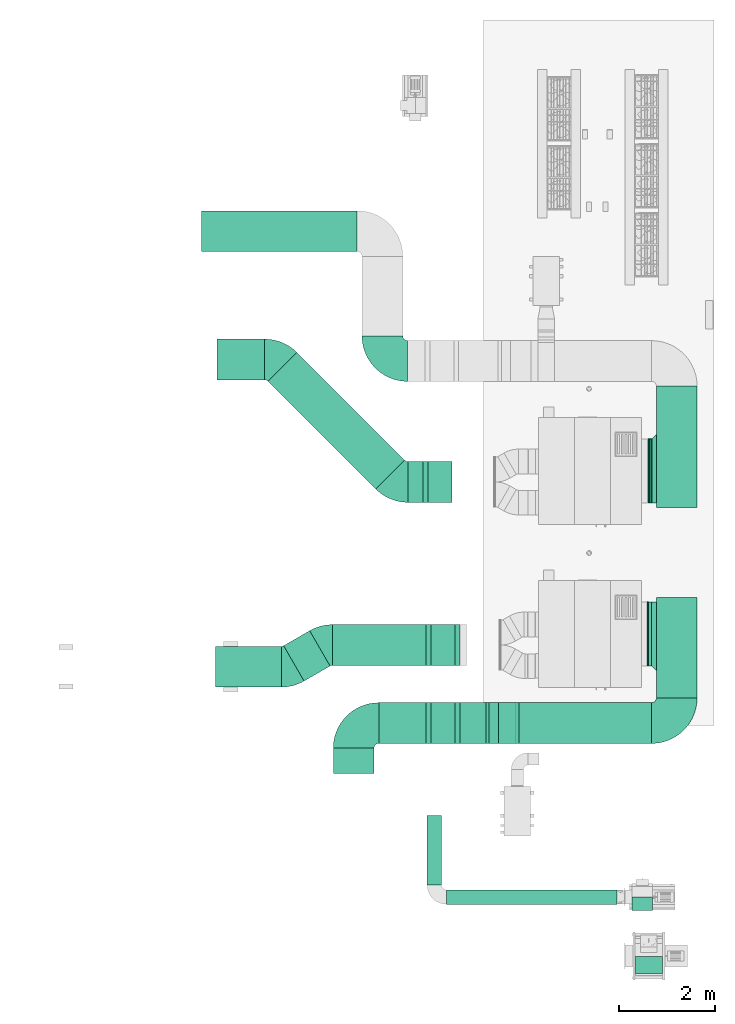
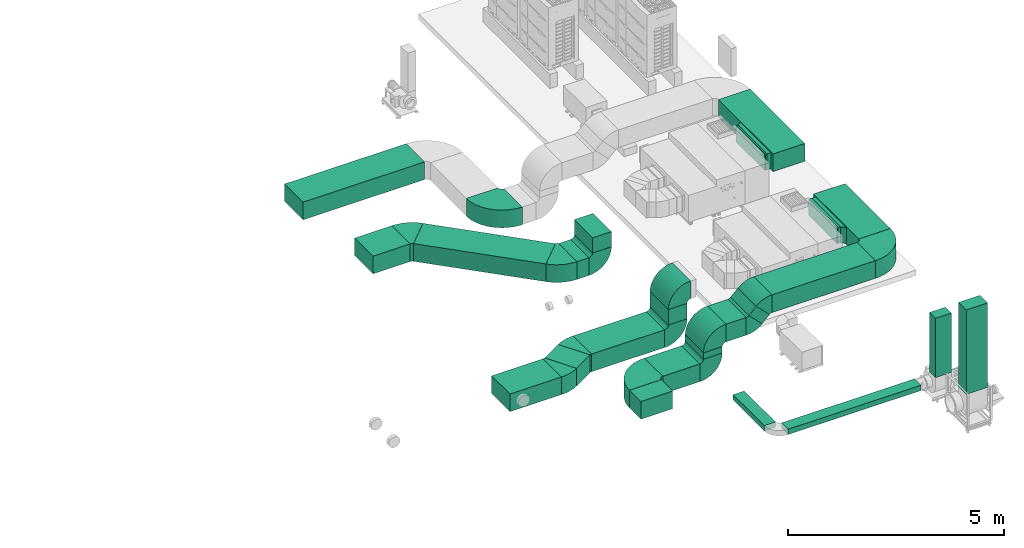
# One storey, part 2 of 10: 23 flow segments, 18 flow fittings.
"""IFC2X3 building model written with IfcOpenShell, lengths in millimetres."""

from ifc_helpers import new_model, entity, si_unit, converted_unit, derived_unit, direction, frame, frame_2d, origin, origin_2d_with_axis, place, context, subcontext, project, spatial, polyline, circle_curve, parameter, trimmed, segment, composite_curve, rectangle, outline, extrude, source, transform, mapped, material, type_object, type_shapes, element, save


model = new_model("IFC2X3")

# Units and contexts
model_context = context("Model", 3, precision=0.01, world=origin(), true_north=direction((6.123233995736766e-17, 1.0)))
body_context = subcontext(model_context, "Body", "Model", "MODEL_VIEW")
ifc_project = project(units=[si_unit("LENGTHUNIT", "METRE", prefix="MILLI"), converted_unit("PLANEANGLEUNIT", "DEGREE", entity("IfcPlaneAngleMeasure", 0.017453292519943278), si_unit("PLANEANGLEUNIT", "RADIAN"), dimensions=[0, 0, 0, 0, 0, 0, 0]), si_unit("AREAUNIT", "SQUARE_METRE"), derived_unit("THERMALTRANSMITTANCEUNIT", [(si_unit("MASSUNIT", "GRAM", prefix="KILO"), 1), (si_unit("THERMODYNAMICTEMPERATUREUNIT", "KELVIN"), -1), (si_unit("TIMEUNIT", "SECOND"), -3)])], contexts=[model_context])

# Site, building, storey
site_placement = place(None, origin())
site = spatial("IfcSite", under=ifc_project, at=site_placement, Name="Default", CompositionType="ELEMENT")
building_placement = place(site_placement, origin())
building = spatial("IfcBuilding", under=site, at=building_placement, Name="Praça Pedro II, 1301 - Centro (Sul), Teresina - PI, 64001-100", CompositionType="ELEMENT")
storey_placement = place(building_placement, frame((0.0, 0.0, 9040.0)))
storey = spatial("IfcBuildingStorey", under=building, at=storey_placement, Name="LAJE TÉCNICA", CompositionType="ELEMENT", Elevation=9040.0)

# Flow segments
duct_segment_type_1 = type_object("IfcDuctSegmentType", Name="Duto retangular:Raios cotovelos / tês", PredefinedType="NOTDEFINED")
flow_segment_1_placement = place(storey_placement, origin())
element("IfcFlowSegment", 1, at=flow_segment_1_placement, inside=storey, type_object=duct_segment_type_1, Name="Duto retangular:Raios cotovelos / tês", ObjectType="Duto retangular:Raios cotovelos / tês", context=body_context, shape_type="SweptSolid", body=[
    extrude(rectangle(XDim=1374.7142273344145, YDim=849.9999999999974, at=origin_2d_with_axis()), frame((30304.74426298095, -64657.40803541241, 230.0)), (0.0, 0.0, 1.0), 499.999999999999),
])
flow_segment_2_placement = place(storey_placement, origin())
element("IfcFlowSegment", 2, at=flow_segment_2_placement, inside=storey, type_object=duct_segment_type_1, Name="Duto retangular:Raios cotovelos / tês", ObjectType="Duto retangular:Raios cotovelos / tês", context=body_context, shape_type="SweptSolid", body=[
    extrude(rectangle(XDim=994.9263717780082, YDim=849.9999999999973, at=frame_2d((2.1600499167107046e-12, -4.348521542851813e-12), x_axis=(1.0, 0.0))), frame((30148.784257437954, -58248.421277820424, 230.0)), (0.0, 0.0, 1.0), 499.999999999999),
])
flow_segment_3_placement = place(storey_placement, origin())
element("IfcFlowSegment", 3, at=flow_segment_3_placement, inside=storey, type_object=duct_segment_type_1, Name="Duto retangular:Raios cotovelos / tês", ObjectType="Duto retangular:Raios cotovelos / tês", context=body_context, shape_type="SweptSolid", body=[
    extrude(rectangle(XDim=3178.362804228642, YDim=849.9999999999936, at=origin_2d_with_axis()), frame((32141.19944942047, -59525.911163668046, 230.0), z_axis=(0.0, 0.0, 1.0), x_axis=(0.7071067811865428, -0.7071067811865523, 0.0)), (0.0, 0.0, 1.0), 499.999999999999),
])
flow_segment_4_placement = place(storey_placement, origin())
element("IfcFlowSegment", 4, at=flow_segment_4_placement, inside=storey, type_object=duct_segment_type_1, Name="Duto retangular:Raios cotovelos / tês", ObjectType="Duto retangular:Raios cotovelos / tês", context=body_context, shape_type="SweptSolid", body=[
    extrude(rectangle(XDim=316.6622634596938, YDim=849.9999999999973, at=frame_2d((2.1742607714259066e-12, 8.668621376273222e-12), x_axis=(1.0, 0.0))), frame((33794.48258724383, -60803.401049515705, 230.0)), (0.0, 0.0, 1.0), 499.999999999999),
])
flow_segment_5_placement = place(storey_placement, origin())
element("IfcFlowSegment", 5, at=flow_segment_5_placement, inside=storey, type_object=duct_segment_type_1, Name="Duto retangular:Raios cotovelos / tês", ObjectType="Duto retangular:Raios cotovelos / tês", context=body_context, shape_type="SweptSolid", body=[
    extrude(rectangle(XDim=626.6673197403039, YDim=849.9999999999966, at=frame_2d((-2.1600499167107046e-12, -3.751665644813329e-12), x_axis=(1.0, 0.0))), frame((31525.956285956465, -64430.404542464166, 230.0), z_axis=(0.0, 0.0, 1.0), x_axis=(0.8660254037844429, 0.49999999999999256, 0.0)), (0.0, 0.0, 1.0), 500.00000000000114),
])
flow_segment_6_placement = place(storey_placement, origin())
element("IfcFlowSegment", 6, at=flow_segment_6_placement, inside=storey, type_object=duct_segment_type_1, Name="Duto retangular:Raios cotovelos / tês", ObjectType="Duto retangular:Raios cotovelos / tês", context=body_context, shape_type="SweptSolid", body=[
    extrude(rectangle(XDim=1956.1149748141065, YDim=849.9999999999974, at=frame_2d((4.320099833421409e-12, 0.0), x_axis=(1.0, 0.0))), frame((33037.86868267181, -64203.40104951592, 230.0)), (0.0, 0.0, 1.0), 499.999999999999),
])
flow_segment_7_placement = place(storey_placement, origin())
element("IfcFlowSegment", 7, at=flow_segment_7_placement, inside=storey, type_object=duct_segment_type_1, Name="Duto retangular:Raios cotovelos / tês", ObjectType="Duto retangular:Raios cotovelos / tês", context=body_context, shape_type="SweptSolid", body=[
    extrude(rectangle(XDim=499.999999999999, YDim=849.9999999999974, at=frame_2d((4.334310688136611e-12, 0.0), x_axis=(1.0, 0.0))), frame((34365.92617007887, -64203.40104951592, 830.0)), (0.0, 0.0, 1.0), 439.04820101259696),
])
flow_segment_8_placement = place(storey_placement, origin())
element("IfcFlowSegment", 8, at=flow_segment_8_placement, inside=storey, type_object=duct_segment_type_1, Name="Duto retangular:Raios cotovelos / tês", ObjectType="Duto retangular:Raios cotovelos / tês", context=body_context, shape_type="SweptSolid", body=[
    extrude(rectangle(XDim=499.999999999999, YDim=849.9999999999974, at=origin_2d_with_axis()), frame((34302.81371897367, -60803.4010495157, 830.0), z_axis=(0.0, 0.0, 1.0), x_axis=(-1.0, 0.0, 0.0)), (0.0, 0.0, 1.0), 426.0558825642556),
])
duct_segment_type_2 = type_object("IfcDuctSegmentType", Name="Duto retangular:Raios cotovelos / torneiras", PredefinedType="NOTDEFINED")
flow_segment_9_placement = place(storey_placement, origin())
element("IfcFlowSegment", 9, at=flow_segment_9_placement, inside=storey, type_object=duct_segment_type_2, Name="Duto retangular:Raios cotovelos / torneiras", ObjectType="Duto retangular:Raios cotovelos / torneiras", context=body_context, shape_type="SweptSolid", body=[
    extrude(rectangle(XDim=3251.2116814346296, YDim=849.9999999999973, at=frame_2d((4.320099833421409e-12, 4.348521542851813e-12), x_axis=(1.0, 0.0))), frame((30950.715230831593, -55571.29390261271, 250.0)), (0.0, 0.0, 1.0), 500.00000000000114),
])
flow_segment_10_placement = place(storey_placement, origin())
element("IfcFlowSegment", 10, at=flow_segment_10_placement, inside=storey, type_object=duct_segment_type_2, Name="Duto retangular:Raios cotovelos / torneiras", ObjectType="Duto retangular:Raios cotovelos / torneiras", context=body_context, shape_type="SweptSolid", body=[
    extrude(rectangle(XDim=529.9213855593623, YDim=850.0000000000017, at=frame_2d((0.0, -4.320099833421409e-12), x_axis=(1.0, 0.0))), frame((32501.321071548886, -66621.98094312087, 250.0), z_axis=(0.0, 0.0, 1.0), x_axis=(0.0, 1.0, 0.0)), (0.0, 0.0, 1.0), 499.999999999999),
])
flow_segment_11_placement = place(storey_placement, origin())
element("IfcFlowSegment", 11, at=flow_segment_11_placement, inside=storey, type_object=duct_segment_type_2, Name="Duto retangular:Raios cotovelos / torneiras", ObjectType="Duto retangular:Raios cotovelos / torneiras", context=body_context, shape_type="SweptSolid", body=[
    extrude(rectangle(XDim=989.6050985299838, YDim=849.9999999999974, at=origin_2d_with_axis()), frame((33521.12362081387, -65832.02025034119, 250.0)), (0.0, 0.0, 1.0), 500.00000000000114),
])
flow_segment_12_placement = place(storey_placement, origin())
element("IfcFlowSegment", 12, at=flow_segment_12_placement, inside=storey, type_object=duct_segment_type_2, Name="Duto retangular:Raios cotovelos / torneiras", ObjectType="Duto retangular:Raios cotovelos / torneiras", context=body_context, shape_type="SweptSolid", body=[
    extrude(rectangle(XDim=499.999999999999, YDim=849.9999999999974, at=origin_2d_with_axis()), frame((34365.92617007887, -65832.02025034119, 850.0), z_axis=(0.0, 0.0, 1.0), x_axis=(-1.0, 0.0, 0.0)), (0.0, 0.0, 1.0), 180.00000000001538),
])
flow_segment_13_placement = place(storey_placement, origin())
element("IfcFlowSegment", 13, at=flow_segment_13_placement, inside=storey, type_object=duct_segment_type_2, Name="Duto retangular:Raios cotovelos / torneiras", ObjectType="Duto retangular:Raios cotovelos / torneiras", context=body_context, shape_type="SweptSolid", body=[
    extrude(rectangle(XDim=2768.1137494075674, YDim=849.9999999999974, at=frame_2d((2.1600499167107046e-12, 0.0), x_axis=(1.0, 0.0))), frame((37332.26419684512, -65832.0202503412, 1530.0), z_axis=(0.0, 0.0, 1.0), x_axis=(-1.0, 0.0, 0.0)), (0.0, 0.0, 1.0), 499.999999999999),
])
flow_segment_14_placement = place(storey_placement, origin())
element("IfcFlowSegment", 14, at=flow_segment_14_placement, inside=storey, type_object=duct_segment_type_2, Name="Duto retangular:Raios cotovelos / torneiras", ObjectType="Duto retangular:Raios cotovelos / torneiras", context=body_context, shape_type="SweptSolid", body=[
    extrude(rectangle(XDim=2535.0000000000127, YDim=850.0000000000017, at=frame_2d((4.320099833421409e-12, -2.1600499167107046e-12), x_axis=(1.0, 0.0))), frame((39241.321071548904, -60072.712841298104, 1530.0), z_axis=(0.0, 0.0, 1.0), x_axis=(0.0, -1.0, 0.0)), (0.0, 0.0, 1.0), 499.999999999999),
])
flow_segment_15_placement = place(storey_placement, origin())
element("IfcFlowSegment", 15, at=flow_segment_15_placement, inside=storey, type_object=duct_segment_type_2, Name="Duto retangular:Raios cotovelos / torneiras", ObjectType="Duto retangular:Raios cotovelos / torneiras", context=body_context, shape_type="SweptSolid", body=[
    extrude(rectangle(XDim=2095.000000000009, YDim=849.9999999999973, at=frame_2d((0.0, -4.348521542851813e-12), x_axis=(1.0, 0.0))), frame((39241.3210715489, -64259.52025034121, 1530.0), z_axis=(0.0, 0.0, 1.0), x_axis=(0.0, 1.0, 0.0)), (0.0, 0.0, 1.0), 499.999999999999),
])
flow_segment_16_placement = place(storey_placement, origin())
element("IfcFlowSegment", 16, at=flow_segment_16_placement, inside=storey, type_object=duct_segment_type_2, Name="Duto retangular:Raios cotovelos / torneiras", ObjectType="Duto retangular:Raios cotovelos / torneiras", context=body_context, shape_type="SweptSolid", body=[
    extrude(rectangle(XDim=280.0000000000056, YDim=424.9999999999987, at=origin_2d_with_axis()), frame((38523.70885179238, -69603.3881795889, 972.5000000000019), z_axis=(0.0, 0.0, 1.0), x_axis=(0.0, -1.0, 0.0)), (0.0, 0.0, 1.0), 1677.5812535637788),
])
flow_segment_17_placement = place(storey_placement, origin())
element("IfcFlowSegment", 17, at=flow_segment_17_placement, inside=storey, type_object=duct_segment_type_2, Name="Duto retangular:Raios cotovelos / torneiras", ObjectType="Duto retangular:Raios cotovelos / torneiras", context=body_context, shape_type="SweptSolid", body=[
    extrude(rectangle(XDim=542.3316584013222, YDim=849.9999999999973, at=frame_2d((0.0, -4.348521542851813e-12), x_axis=(1.0, 0.0))), frame((34987.09199927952, -65832.02025034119, 1130.0)), (0.0, 0.0, 1.0), 499.999999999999),
])
flow_segment_18_placement = place(storey_placement, origin())
element("IfcFlowSegment", 18, at=flow_segment_18_placement, inside=storey, type_object=duct_segment_type_2, Name="Duto retangular:Raios cotovelos / torneiras", ObjectType="Duto retangular:Raios cotovelos / torneiras", context=body_context, shape_type="SweptSolid", body=[
    extrude(rectangle(XDim=275.7359312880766, YDim=500.000000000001, at=frame_2d((-1.5489831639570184e-12, -1.5347723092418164e-12), x_axis=(1.0, 0.0))), frame((35603.23257531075, -66257.0202503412, 1580.0), z_axis=(0.0, 1.0, 0.0), x_axis=(0.7071067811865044, 0.0, 0.7071067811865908)), (0.0, 0.0, 1.0), 849.9999999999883),
])
flow_segment_19_placement = place(storey_placement, origin())
element("IfcFlowSegment", 19, at=flow_segment_19_placement, inside=storey, type_object=duct_segment_type_2, Name="Duto retangular:Raios cotovelos / torneiras", ObjectType="Duto retangular:Raios cotovelos / torneiras", context=body_context, shape_type="SweptSolid", body=[
    extrude(rectangle(XDim=64.99999999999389, YDim=1334.3999999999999, at=frame_2d((0.0, 4.320099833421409e-12), x_axis=(1.0, 0.0))), frame((38683.82107154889, -63972.7830641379, 1553.8999999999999), z_axis=(0.0, 0.0, 1.0), x_axis=(-1.0, 0.0, 0.0)), (0.0, 0.0, 1.0), 452.2000000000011),
])
flow_segment_20_placement = place(storey_placement, origin())
element("IfcFlowSegment", 20, at=flow_segment_20_placement, inside=storey, type_object=duct_segment_type_2, Name="Duto retangular:Raios cotovelos / torneiras", ObjectType="Duto retangular:Raios cotovelos / torneiras", context=body_context, shape_type="SweptSolid", body=[
    extrude(rectangle(XDim=40.22632270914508, YDim=1334.3999999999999, at=origin_2d_with_axis()), frame((38696.20791019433, -60572.78306413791, 1553.8999999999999)), (0.0, 0.0, 1.0), 452.2000000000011),
])
flow_segment_21_placement = place(storey_placement, origin())
element("IfcFlowSegment", 21, at=flow_segment_21_placement, inside=storey, type_object=duct_segment_type_2, Name="Duto retangular:Raios cotovelos / torneiras", ObjectType="Duto retangular:Raios cotovelos / torneiras", context=body_context, shape_type="SweptSolid", body=[
    extrude(rectangle(XDim=355.0000000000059, YDim=570.0000000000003, at=frame_2d((0.0, -4.320099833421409e-12), x_axis=(1.0, 0.0))), frame((38660.769143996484, -70877.28932437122, 1272.0), z_axis=(0.0, 0.0, 1.0), x_axis=(0.0, 1.0, 0.0)), (0.0, 0.0, 1.0), 2389.999999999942),
])
flow_segment_22_placement = place(storey_placement, origin())
element("IfcFlowSegment", 22, at=flow_segment_22_placement, inside=storey, type_object=duct_segment_type_2, Name="Duto retangular:Raios cotovelos / torneiras", ObjectType="Duto retangular:Raios cotovelos / torneiras", context=body_context, shape_type="SweptSolid", body=[
    extrude(rectangle(XDim=1448.2717718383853, YDim=300.0000000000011, at=frame_2d((-4.320099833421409e-12, 0.0), x_axis=(1.0, 0.0))), frame((34186.88553093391, -68487.2522936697, 640.0), z_axis=(0.0, 0.0, 1.0), x_axis=(0.0, -1.0, 0.0)), (0.0, 0.0, 1.0), 150.00000000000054),
])
flow_segment_23_placement = place(storey_placement, origin())
element("IfcFlowSegment", 23, at=flow_segment_23_placement, inside=storey, type_object=duct_segment_type_2, Name="Duto retangular:Raios cotovelos / torneiras", ObjectType="Duto retangular:Raios cotovelos / torneiras", context=body_context, shape_type="SweptSolid", body=[
    extrude(rectangle(XDim=3557.399439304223, YDim=300.00000000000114, at=frame_2d((2.1600499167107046e-12, -4.334310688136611e-12), x_axis=(1.0, 0.0))), frame((36215.585250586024, -69461.38817958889, 640.0), z_axis=(0.0, 0.0, 1.0), x_axis=(-1.0, 0.0, 0.0)), (0.0, 0.0, 1.0), 150.00000000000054),
])

# Flow fittings
ifc_material = material(Name="<Unnamed>")
duct_fitting_type_1 = type_object("IfcDuctFittingType", Name="BTS vanes:1 Splitter Vanes", PredefinedType="NOTDEFINED", material=ifc_material)
shared_shape_1 = source(origin(), body_context, "Body", "SweptSolid", [
    extrude(outline(composite_curve([segment(polyline([(-501.8844699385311, -185.61553006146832), (348.1155300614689, -185.6155300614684)]), True, "CONTINUOUS"), segment(trimmed(circle_curve(frame_2d((448.11553006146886, -185.61553006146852), x_axis=(-0.707106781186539, 0.7071067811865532)), 99.99999999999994), [parameter(0.0)], [parameter(44.99999999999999)], True, "PARAMETER"), False, "CONTINUOUS"), segment(polyline([(377.4048519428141, -114.90485194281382), (-223.6359120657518, 486.1359120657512)]), True, "CONTINUOUS"), segment(trimmed(circle_curve(frame_2d((448.11553006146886, -185.61553006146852), x_axis=(-0.707106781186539, 0.7071067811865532)), 950.0000000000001), [parameter(0.0)], [parameter(44.99999999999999)], True, "PARAMETER"), True, "CONTINUOUS")], self_intersect=False)), frame((-31.846590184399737, 76.88446993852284, -250.0), z_axis=(0.0, 0.0, 1.0), x_axis=(-0.707106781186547, 0.707106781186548, 0.0)), (0.0, 0.0, 1.0), 500.00000000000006),
    extrude(outline(composite_curve([segment(polyline([(-35.76341427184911, -41.86816467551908), (1.0786909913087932, -41.86816467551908)]), True, "CONTINUOUS"), segment(trimmed(circle_curve(frame_2d((101.07869099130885, -41.868164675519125), x_axis=(-0.7071067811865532, 0.7071067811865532)), 100.00000000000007), [parameter(0.0)], [parameter(44.99999999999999)], True, "PARAMETER"), False, "CONTINUOUS"), segment(polyline([(30.368012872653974, 28.842513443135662), (4.31671040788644, 54.89381590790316)]), True, "CONTINUOUS"), segment(trimmed(circle_curve(frame_2d((101.07869099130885, -41.868164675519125), x_axis=(-0.7071067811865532, 0.7071067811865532)), 136.8421052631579), [parameter(0.0)], [parameter(44.99999999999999)], True, "PARAMETER"), True, "CONTINUOUS")], self_intersect=False)), frame((-175.59395557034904, 423.92130900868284, -250.0), z_axis=(0.0, 0.0, 1.0), x_axis=(-0.707106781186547, 0.707106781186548, 0.0)), (0.0, 0.0, 1.0), 500.00000000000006),
])
type_shapes(duct_fitting_type_1, [shared_shape_1])
for number, where, z_axis, x_axis, name in (
    (24, (30863.70956357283, -58248.42127782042, 480.0), (0.0, 0.0, 1.0), (-0.707106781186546, 0.7071067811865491, 0.0), "BTS vanes:1 Splitter Vanes"),
    (25, (33418.689335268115, -60803.40104951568, 480.0), (0.0, 0.0, 1.0), (0.7071067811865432, -0.7071067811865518, 0.0), "BTS vanes:1 Splitter Vanes"),
):
    element("IfcFlowFitting", number, at=place(storey_placement, frame(where, z_axis=z_axis, x_axis=x_axis)), inside=storey, type_object=duct_fitting_type_1, material=ifc_material, Name=name, ObjectType="BTS vanes:1 Splitter Vanes", context=body_context, shape_type="MappedRepresentation", body=[
        mapped(shared_shape_1, transform((0.0, 0.0, 0.0), scale=1.0)),
    ])
duct_fitting_type_2 = type_object("IfcDuctFittingType", Name="BTS vanes:1 Splitter Vanes", PredefinedType="NOTDEFINED", material=ifc_material)
shared_shape_2 = source(origin(), body_context, "Body", "SweptSolid", [
    extrude(outline(composite_curve([segment(polyline([(-460.16833150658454, -131.24999999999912), (389.83166849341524, -131.24999999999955)]), True, "CONTINUOUS"), segment(trimmed(circle_curve(frame_2d((489.8316684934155, -131.2499999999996), x_axis=(-0.866025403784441, 0.49999999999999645)), 100.00000000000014), [parameter(0.0)], [parameter(29.999999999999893)], True, "PARAMETER"), False, "CONTINUOUS"), segment(polyline([(403.22912811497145, -81.24999999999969), (-332.8924651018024, 343.7499999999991)]), True, "CONTINUOUS"), segment(trimmed(circle_curve(frame_2d((489.8316684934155, -131.2499999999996), x_axis=(-0.866025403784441, 0.49999999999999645)), 950.0000000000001), [parameter(0.0)], [parameter(29.999999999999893)], True, "PARAMETER"), True, "CONTINUOUS")], self_intersect=False)), frame((-9.42332602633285, 35.16833150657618, -250.0), z_axis=(0.0, 0.0, 1.0), x_axis=(-0.49999999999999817, 0.8660254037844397, 0.0)), (0.0, 0.0, 1.0), 500.00000000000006),
    extrude(outline(composite_curve([segment(polyline([(-26.35375898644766, -29.605263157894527), (10.488346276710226, -29.605263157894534)]), True, "CONTINUOUS"), segment(trimmed(circle_curve(frame_2d((110.48834627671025, -29.605263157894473), x_axis=(-0.8660254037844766, 0.5)), 100.00000000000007), [parameter(0.0)], [parameter(29.999999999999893)], True, "PARAMETER"), False, "CONTINUOUS"), segment(polyline([(23.885805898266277, 20.394736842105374), (-8.0203931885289, 38.81578947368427)]), True, "CONTINUOUS"), segment(trimmed(circle_curve(frame_2d((110.48834627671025, -29.605263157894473), x_axis=(-0.8660254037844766, 0.5)), 136.84210526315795), [parameter(0.0)], [parameter(29.999999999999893)], True, "PARAMETER"), True, "CONTINUOUS")], self_intersect=False)), frame((-111.06806286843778, 414.5116537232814, -250.0), z_axis=(0.0, 0.0, 1.0), x_axis=(-0.49999999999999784, 0.8660254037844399, 0.0)), (0.0, 0.0, 1.0), 500.00000000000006),
])
type_shapes(duct_fitting_type_2, [shared_shape_2])
flow_fitting_1_placement = place(storey_placement, frame((31132.774702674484, -64657.40803541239, 480.0)))
element("IfcFlowFitting", 26, at=flow_fitting_1_placement, inside=storey, type_object=duct_fitting_type_2, material=ifc_material, Name="BTS vanes:1 Splitter Vanes", ObjectType="BTS vanes:1 Splitter Vanes", context=body_context, shape_type="MappedRepresentation", body=[
    mapped(shared_shape_2, transform((0.0, 0.0, 0.0), scale=1.0)),
])
flow_fitting_2_placement = place(storey_placement, frame((31919.13786923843, -64203.40104951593, 480.0), z_axis=(0.0, 0.0, 1.0), x_axis=(-1.0, 0.0, 0.0)))
element("IfcFlowFitting", 27, at=flow_fitting_2_placement, inside=storey, type_object=duct_fitting_type_2, material=ifc_material, Name="BTS vanes:1 Splitter Vanes", ObjectType="BTS vanes:1 Splitter Vanes", context=body_context, shape_type="MappedRepresentation", body=[
    mapped(shared_shape_2, transform((0.0, 0.0, 0.0), scale=1.0)),
])
duct_fitting_type_3 = type_object("IfcDuctFittingType", Name="BTS vanes:1 Splitter Vanes", PredefinedType="NOTDEFINED", material=ifc_material)
shared_shape_3 = source(origin(), body_context, "Body", "SweptSolid", [
    extrude(outline(composite_curve([segment(polyline([(-425.0, -175.0), (75.0, -175.0)]), True, "CONTINUOUS"), segment(trimmed(circle_curve(frame_2d((175.0, -175.0), x_axis=(0.0, 1.0)), 99.99999999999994), [parameter(0.0)], [parameter(90.00000000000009)], True, "PARAMETER"), False, "CONTINUOUS"), segment(polyline([(175.0, -75.0), (175.0, 425.0)]), True, "CONTINUOUS"), segment(trimmed(circle_curve(frame_2d((175.0, -175.0), x_axis=(0.0, 1.0)), 600.0), [parameter(0.0)], [parameter(90.00000000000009)], True, "PARAMETER"), True, "CONTINUOUS")], self_intersect=False)), frame((-175.0, 175.0, -425.0), z_axis=(0.0, 0.0, 1.0), x_axis=(-1.0, 0.0, 0.0)), (0.0, 0.0, 1.0), 850.0),
    extrude(outline(composite_curve([segment(polyline([(-77.63157894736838, -59.210526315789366), (-40.78947368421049, -59.210526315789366)]), True, "CONTINUOUS"), segment(trimmed(circle_curve(frame_2d((59.21052631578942, -59.21052631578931), x_axis=(0.0, 1.0)), 99.99999999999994), [parameter(0.0)], [parameter(90.00000000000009)], True, "PARAMETER"), False, "CONTINUOUS"), segment(polyline([(59.21052631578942, 40.78947368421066), (59.21052631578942, 77.63157894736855)]), True, "CONTINUOUS"), segment(trimmed(circle_curve(frame_2d((59.21052631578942, -59.21052631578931), x_axis=(0.0, 1.0)), 136.8421052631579), [parameter(0.0)], [parameter(90.00000000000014)], True, "PARAMETER"), True, "CONTINUOUS")], self_intersect=False)), frame((-290.7894736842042, 290.7894736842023, -425.0), z_axis=(0.0, 0.0, 1.0), x_axis=(-1.0, 0.0, 0.0)), (0.0, 0.0, 1.0), 850.0),
])
type_shapes(duct_fitting_type_3, [shared_shape_3])
for number, where, z_axis, x_axis, name in (
    (28, (34365.92617007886, -64203.40104951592, 480.0), (0.0, -1.0, 0.0), (1.0, 0.0, 0.0), "BTS vanes:1 Splitter Vanes"),
    (29, (34365.92617007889, -64203.401049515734, 1619.0482010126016), (0.0, 1.0, 0.0), (0.0, 0.0, 1.0), "BTS vanes:1 Splitter Vanes"),
    (30, (34302.813718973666, -60803.4010495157, 480.0), (0.0, -1.0, 0.0), (1.0, 0.0, 0.0), "BTS vanes:1 Splitter Vanes"),
    (31, (34365.926170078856, -65832.0202503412, 500.0), (0.0, -1.0, 0.0), (1.0, 0.0, 0.0), "BTS vanes:1 Splitter Vanes"),
    (32, (34365.92617007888, -65832.0202503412, 1380.0), (0.0, 1.0, 0.0), (0.0, 0.0, 1.0), "BTS vanes:1 Splitter Vanes"),
):
    element("IfcFlowFitting", number, at=place(storey_placement, frame(where, z_axis=z_axis, x_axis=x_axis)), inside=storey, type_object=duct_fitting_type_3, material=ifc_material, Name=name, ObjectType="BTS vanes:1 Splitter Vanes", context=body_context, shape_type="MappedRepresentation", body=[
        mapped(shared_shape_3, transform((0.0, 0.0, 0.0), scale=1.0)),
    ])
duct_fitting_type_4 = type_object("IfcDuctFittingType", Name="BTS vanes:1 Splitter Vanes", PredefinedType="NOTDEFINED", material=ifc_material)
shared_shape_4 = source(origin(), body_context, "Body", "SweptSolid", [
    extrude(outline(composite_curve([segment(polyline([(-687.5, -262.4999999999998), (162.50000000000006, -262.4999999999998)]), True, "CONTINUOUS"), segment(trimmed(circle_curve(frame_2d((262.5, -262.4999999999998), x_axis=(0.0, 1.0)), 99.99999999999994), [parameter(0.0)], [parameter(90.00000000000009)], True, "PARAMETER"), False, "CONTINUOUS"), segment(polyline([(262.5, -162.4999999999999), (262.5, 687.5000000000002)]), True, "CONTINUOUS"), segment(trimmed(circle_curve(frame_2d((262.5, -262.4999999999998), x_axis=(0.0, 1.0)), 950.0000000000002), [parameter(0.0)], [parameter(90.00000000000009)], True, "PARAMETER"), True, "CONTINUOUS")], self_intersect=False)), frame((-262.49999999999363, 262.4999999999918, -250.0), z_axis=(0.0, 0.0, 1.0), x_axis=(-1.0, 0.0, 0.0)), (0.0, 0.0, 1.0), 500.00000000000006),
    extrude(outline(composite_curve([segment(polyline([(-77.63157894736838, -59.21052631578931), (-40.78947368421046, -59.21052631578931)]), True, "CONTINUOUS"), segment(trimmed(circle_curve(frame_2d((59.21052631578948, -59.21052631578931), x_axis=(0.0, 1.0)), 100.0), [parameter(0.0)], [parameter(90.00000000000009)], True, "PARAMETER"), False, "CONTINUOUS"), segment(polyline([(59.21052631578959, 40.789473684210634), (59.21052631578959, 77.63157894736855)]), True, "CONTINUOUS"), segment(trimmed(circle_curve(frame_2d((59.21052631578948, -59.21052631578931), x_axis=(0.0, 1.0)), 136.84210526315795), [parameter(0.0)], [parameter(90.00000000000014)], True, "PARAMETER"), True, "CONTINUOUS")], self_intersect=False)), frame((-465.78947368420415, 465.7894736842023, -250.0), z_axis=(0.0, 0.0, 1.0), x_axis=(-1.0, 0.0, 0.0)), (0.0, 0.0, 1.0), 500.00000000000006),
])
type_shapes(duct_fitting_type_4, [shared_shape_4])
for number, where, z_axis, x_axis, name in (
    (33, (33101.32107154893, -58280.21284129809, 500.0), (0.0, 0.0, 1.0), (0.0, -1.0, 0.0), "BTS vanes:1 Splitter Vanes"),
    (34, (32501.321071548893, -65832.0202503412, 500.0), (0.0, 0.0, 1.0), (-1.0, 0.0, 0.0), "BTS vanes:1 Splitter Vanes"),
):
    element("IfcFlowFitting", number, at=place(storey_placement, frame(where, z_axis=z_axis, x_axis=x_axis)), inside=storey, type_object=duct_fitting_type_4, material=ifc_material, Name=name, ObjectType="BTS vanes:1 Splitter Vanes", context=body_context, shape_type="MappedRepresentation", body=[
        mapped(shared_shape_4, transform((0.0, 0.0, 0.0), scale=1.0)),
    ])
flow_fitting_3_placement = place(storey_placement, frame((39241.32107154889, -65832.0202503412, 1780.0)))
element("IfcFlowFitting", 35, at=flow_fitting_3_placement, inside=storey, type_object=duct_fitting_type_4, material=ifc_material, Name="BTS vanes:1 Splitter Vanes", ObjectType="BTS vanes:1 Splitter Vanes", context=body_context, shape_type="MappedRepresentation", body=[
    mapped(shared_shape_4, transform((0.0, 0.0, 0.0), scale=1.0)),
])
duct_fitting_type_5 = type_object("IfcDuctFittingType", Name="BTS vanes:1 Splitter Vanes", PredefinedType="NOTDEFINED", material=ifc_material)
shared_shape_5 = source(origin(), body_context, "Body", "SweptSolid", [
    extrude(outline(composite_curve([segment(polyline([(-301.25631329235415, -123.74368670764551), (198.7436867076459, -123.7436867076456)]), True, "CONTINUOUS"), segment(trimmed(circle_curve(frame_2d((298.74368670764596, -123.74368670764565), x_axis=(-0.7071067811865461, 0.7071067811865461)), 100.0), [parameter(0.0)], [parameter(44.99999999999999)], True, "PARAMETER"), False, "CONTINUOUS"), segment(polyline([(228.0330085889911, -53.03300858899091), (-125.52038200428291, 300.5203820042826)]), True, "CONTINUOUS"), segment(trimmed(circle_curve(frame_2d((298.74368670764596, -123.74368670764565), x_axis=(-0.7071067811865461, 0.7071067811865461)), 600.0), [parameter(0.0)], [parameter(44.99999999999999)], True, "PARAMETER"), True, "CONTINUOUS")], self_intersect=False)), frame((-21.23106012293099, 51.256313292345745, -425.0), z_axis=(0.0, 0.0, 1.0), x_axis=(-0.707106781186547, 0.707106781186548, 0.0)), (0.0, 0.0, 1.0), 850.0),
    extrude(outline(composite_curve([segment(polyline([(-35.76341427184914, -41.86816467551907), (1.0786909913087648, -41.86816467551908)]), True, "CONTINUOUS"), segment(trimmed(circle_curve(frame_2d((101.07869099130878, -41.86816467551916), x_axis=(-0.7071067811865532, 0.7071067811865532)), 100.0), [parameter(0.0)], [parameter(44.99999999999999)], True, "PARAMETER"), False, "CONTINUOUS"), segment(polyline([(30.368012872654, 28.84251344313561), (4.3167104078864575, 54.89381590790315)]), True, "CONTINUOUS"), segment(trimmed(circle_curve(frame_2d((101.07869099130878, -41.86816467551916), x_axis=(-0.7071067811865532, 0.7071067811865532)), 136.8421052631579), [parameter(0.0)], [parameter(44.99999999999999)], True, "PARAMETER"), True, "CONTINUOUS")], self_intersect=False)), frame((-103.10658215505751, 248.9213090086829, -425.0), z_axis=(0.0, 0.0, 1.0), x_axis=(-0.7071067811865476, 0.7071067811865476, 0.0)), (0.0, 0.0, 1.0), 850.0),
])
type_shapes(duct_fitting_type_5, [shared_shape_5])
for number, where, z_axis, x_axis, name in (
    (36, (35403.23257531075, -65832.0202503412, 1380.0), (0.0, -1.0, 0.0), (1.0, 0.0, 0.0), "BTS vanes:1 Splitter Vanes"),
    (37, (35803.23257531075, -65832.0202503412, 1780.0), (0.0, 1.0, 0.0), (0.7071067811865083, 0.0, 0.7071067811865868), "BTS vanes:1 Splitter Vanes"),
):
    element("IfcFlowFitting", number, at=place(storey_placement, frame(where, z_axis=z_axis, x_axis=x_axis)), inside=storey, type_object=duct_fitting_type_5, material=ifc_material, Name=name, ObjectType="BTS vanes:1 Splitter Vanes", context=body_context, shape_type="MappedRepresentation", body=[
        mapped(shared_shape_5, transform((0.0, 0.0, 0.0), scale=1.0)),
    ])
duct_fitting_type_6 = type_object("IfcDuctFittingType", Name="M_Rectangular Tap - Beveled:Standard", PredefinedType="NOTDEFINED", material=ifc_material)
shared_shape_6 = source(origin(), body_context, "Body", "SweptSolid", [
    extrude(outline(polyline([(-62.43839999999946, -840.6400000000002), (43.65760000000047, -840.6400000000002), (43.65760000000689, 593.7600000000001), (37.56160000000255, 593.7600000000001), (-62.438399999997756, 493.76), (-62.43839999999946, -840.6400000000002)])), frame((37.56160000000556, -173.44000000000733, -226.09999999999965), z_axis=(0.0, 0.0, 1.0), x_axis=(-1.0, 0.0, 0.0)), (0.0, 0.0, 1.0), 452.1999999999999),
])
type_shapes(duct_fitting_type_6, [shared_shape_6])
flow_fitting_4_placement = place(storey_placement, frame((38816.3210715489, -63972.783064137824, 1780.0), z_axis=(0.0, 0.0, -1.0), x_axis=(-1.0, 0.0, 0.0)))
element("IfcFlowFitting", 38, at=flow_fitting_4_placement, inside=storey, type_object=duct_fitting_type_6, material=ifc_material, Name="M_Rectangular Tap - Beveled:Standard", ObjectType="M_Rectangular Tap - Beveled:Standard", context=body_context, shape_type="MappedRepresentation", body=[
    mapped(shared_shape_6, transform((0.0, 0.0, 0.0), scale=1.0)),
])
duct_fitting_type_7 = type_object("IfcDuctFittingType", Name="M_Tampa retangular:Padrão", PredefinedType="NOTDEFINED", material=ifc_material)
shared_shape_7 = source(origin(), body_context, "Body", "SweptSolid", [
    extrude(rectangle(XDim=24.99999999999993, YDim=1334.4, at=frame_2d((-1.7763568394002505e-15, 0.0), x_axis=(1.0, 0.0))), frame((12.500000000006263, 0.0, -226.10000000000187)), (0.0, 0.0, 1.0), 452.2),
])
type_shapes(duct_fitting_type_7, [shared_shape_7])
for number, where, z_axis, x_axis in (
    (39, (38651.3210715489, -63972.783064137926, 1780.0), (0.0, 0.0, 1.0), (-1.0, 0.0, 0.0)),
    (40, (38676.09474883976, -60572.78306413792, 1780.0), (0.0, 0.0, 1.0), (-1.0, 0.0, 0.0)),
):
    element("IfcFlowFitting", number, at=place(storey_placement, frame(where, z_axis=z_axis, x_axis=x_axis)), inside=storey, type_object=duct_fitting_type_7, material=ifc_material, Name="M_Tampa retangular:Padrão", ObjectType="M_Tampa retangular:Padrão", context=body_context, shape_type="MappedRepresentation", body=[
        mapped(shared_shape_7, transform((0.0, 0.0, 0.0), scale=1.0)),
    ])
duct_fitting_type_8 = type_object("IfcDuctFittingType", Name="M_Rectangular Tap - Beveled:Standard", PredefinedType="NOTDEFINED", material=ifc_material)
shared_shape_8 = source(origin(), body_context, "Body", "SweptSolid", [
    extrude(outline(polyline([(-840.6400000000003, -62.43840000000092), (493.76000000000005, -62.43840000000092), (593.7600000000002, 37.56159999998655), (593.7600000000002, 43.65760000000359), (-840.6400000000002, 43.65759999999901), (-840.6400000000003, -62.43840000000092)])), frame((37.561600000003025, 173.44000000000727, -226.09999999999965), z_axis=(0.0, 0.0, 1.0), x_axis=(0.0, 1.0, 0.0)), (0.0, 0.0, 1.0), 452.1999999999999),
])
type_shapes(duct_fitting_type_8, [shared_shape_8])
flow_fitting_5_placement = place(storey_placement, frame((38816.32107154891, -60572.78306413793, 1780.0), z_axis=(0.0, 0.0, -1.0), x_axis=(-1.0, 0.0, 0.0)))
element("IfcFlowFitting", 41, at=flow_fitting_5_placement, inside=storey, type_object=duct_fitting_type_8, material=ifc_material, Name="M_Rectangular Tap - Beveled:Standard", ObjectType="M_Rectangular Tap - Beveled:Standard", context=body_context, shape_type="MappedRepresentation", body=[
    mapped(shared_shape_8, transform((0.0, 0.0, 0.0), scale=1.0)),
])

save(model, "model.ifc")
